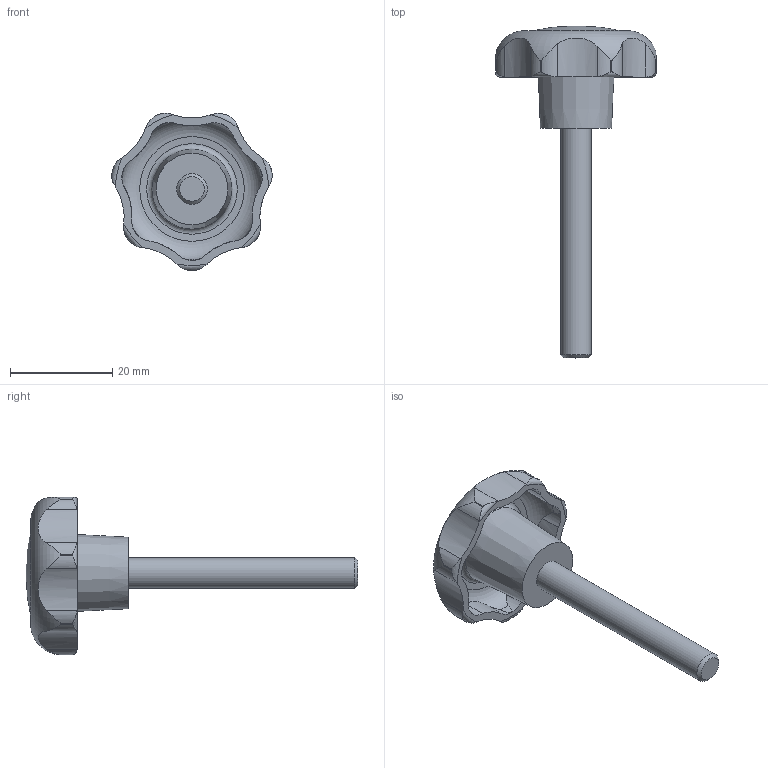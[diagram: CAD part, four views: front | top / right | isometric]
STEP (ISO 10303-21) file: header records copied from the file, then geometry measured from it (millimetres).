
FILE_DESCRIPTION( ( 'STEP AP203' ), '1' );
FILE_NAME( 'C:/Temp/Ganter_Step_05_03_2020/data/2_2/gn_6336_4/gn_6336_4_st/Star knob GN 6336.4-ST-32-M6-45.stp', '2020-03-05T12:07:22', ( 'License CC BY-ND 4.0' ), ( 'CADENAS' ), ' ', 'PARTsolutions', ' ' );
FILE_SCHEMA( ( 'CONFIG_CONTROL_DESIGN' ) );
Length unit declared in the file: millimetre
Products named in the file (1): _Star knob GN 6336.4-ST-32-M6-45
Bounding box: 31.4 x 65 x 30.81 mm (x, y, z)
Volume: 7074.2 mm3; surface area: 4024.3 mm2
Topology: 1 solids, 1 shells, 74 faces, 209 edges, 138 vertices
Faces by surface type: cylinder 50, torus 10, cone 10, plane 3, sphere 1
Full cylindrical faces by diameter (mm): 6 x1
Entity records: 3221 total; most frequent: CARTESIAN_POINT 1406, ORIENTED_EDGE 394, DIRECTION 336, EDGE_CURVE 197, AXIS2_PLACEMENT_3D 147, VERTEX_POINT 136, EDGE_LOOP 83, B_SPLINE_CURVE_WITH_KNOTS 83
